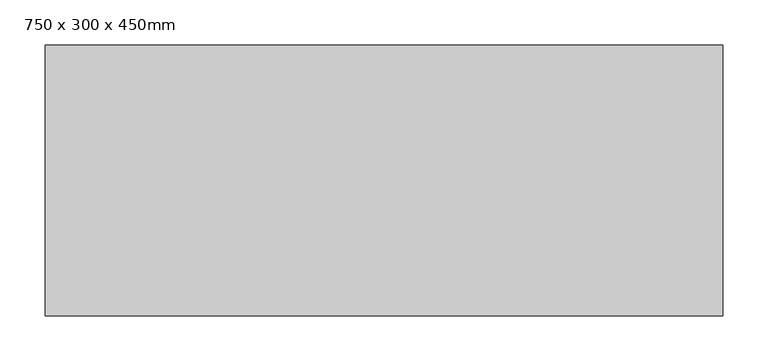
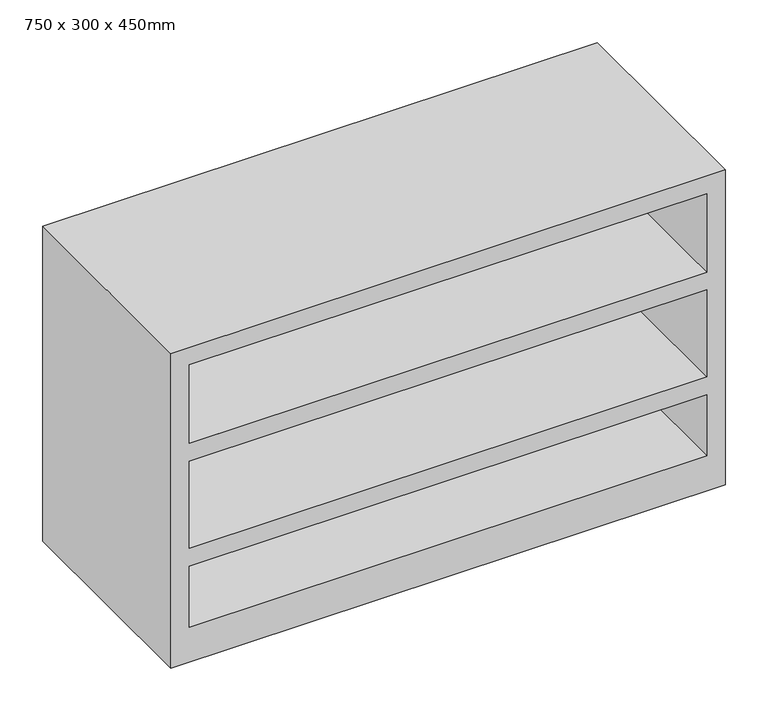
"""IFC4 building model written with IfcOpenShell, lengths in millimetres: furniture geometry, Shelving (Floor) - Allround : 750 x 300 x 450mm."""

import ifcopenshell
import ifcopenshell.guid

model = None  # the IFC model being written
_history = None  # IfcOwnerHistory: only IFC2X3 demands one
_inside = {}  # id of a spatial element -> (the spatial element, [elements in it])
_under = {}  # id of a project, library or spatial element -> (it, [spatial elements below it])
_declared = {}  # id of a project -> (the project, [libraries it declares])
_typed = {}  # id of a type object -> (the type object, [elements of that type])
_made_of = {}  # id of a material, layer set ... -> (it, [elements and type objects made of it])


def new_model(schema):
    """Start an empty IFC model of exactly this schema.

    Asked for "IFC4X3", IfcOpenShell would pick the latest addendum, in which some entities
    have other attributes; the version numbers below select the first issue.
    IFC2X3 requires an IfcOwnerHistory on every rooted entity: one is made here for all.
    """
    global model, _history
    if schema == "IFC4X3":
        model = ifcopenshell.file(schema_version=(4, 3, 0, 0))
    else:
        model = ifcopenshell.file(schema=schema)
    _inside.clear()
    _under.clear()
    _declared.clear()
    _typed.clear()
    _made_of.clear()
    _history = None
    if model.schema == "IFC2X3":
        org = make("IfcOrganization", Name="unknown")
        user = make(
            "IfcPersonAndOrganization",
            ThePerson=make("IfcPerson", FamilyName="unknown"),
            TheOrganization=org,
        )
        app = make(
            "IfcApplication",
            ApplicationDeveloper=org,
            Version="unknown",
            ApplicationFullName="unknown",
            ApplicationIdentifier="unknown",
        )
        _history = make(
            "IfcOwnerHistory",
            OwningUser=user,
            OwningApplication=app,
            ChangeAction="ADDED",
            CreationDate=0,
        )
    return model


def make(cls, **values):
    """One entity of the class cls with the attributes given. An attribute that is None is left unset."""
    return model.create_entity(
        cls, **{name: value for name, value in values.items() if value is not None}
    )


def rooted(cls, **values):
    """An entity with a GlobalId (a new one), such as an element, a storey or a relation."""
    return make(cls, GlobalId=ifcopenshell.guid.new(), OwnerHistory=_history, **values)


def si_unit(unit_type, name, prefix=None):
    """IfcSIUnit, for example si_unit("LENGTHUNIT", "METRE", prefix="MILLI")."""
    return make("IfcSIUnit", UnitType=unit_type, Prefix=prefix, Name=name)


def assignment(units):
    """IfcUnitAssignment: the units of a project."""
    return None if units is None else make("IfcUnitAssignment", Units=units)


def point(xyz):
    """IfcCartesianPoint."""
    return None if xyz is None else make("IfcCartesianPoint", Coordinates=xyz)


def direction(xyz):
    """IfcDirection."""
    return None if xyz is None else make("IfcDirection", DirectionRatios=xyz)


def frame(location, z_axis=None, x_axis=None):
    """IfcAxis2Placement3D, a coordinate frame: its origin and axes. An axis left out is left unset."""
    return make(
        "IfcAxis2Placement3D",
        Location=point(location),
        Axis=direction(z_axis),
        RefDirection=direction(x_axis),
    )


def origin():
    """The frame at (0, 0, 0) with its axes left unset."""
    return frame((0.0, 0.0, 0.0))


def place(relative_to, where):
    """IfcLocalPlacement: puts the frame where relative to a parent placement (None: the world)."""
    return make(
        "IfcLocalPlacement", PlacementRelTo=relative_to, RelativePlacement=where
    )


def context(
    kind, dimensions, precision=None, world=None, true_north=None, identifier=None
):
    """IfcGeometricRepresentationContext, for example the 3D "Model" context."""
    return make(
        "IfcGeometricRepresentationContext",
        ContextIdentifier=identifier,
        ContextType=kind,
        CoordinateSpaceDimension=dimensions,
        Precision=precision,
        WorldCoordinateSystem=world,
        TrueNorth=true_north,
    )


def project(units=None, contexts=None):
    """IfcProject with its units and contexts."""
    return rooted(
        "IfcProject",
        Name="project",
        RepresentationContexts=contexts,
        UnitsInContext=assignment(units),
    )


def spatial(cls, under=None, at=None, **own):
    """A site, building, storey or space (cls), placed at a placement, below another one or the project."""
    s = rooted(cls, ObjectPlacement=at, **own)
    if under is not None:
        _under.setdefault(under.id(), (under, []))[1].append(s)
    return s


def polyline(points):
    """IfcPolyline through the points."""
    return make("IfcPolyline", Points=[point(p) for p in points])


def outline(outer, holes=None, kind="AREA"):
    """IfcArbitraryClosedProfileDef: a profile drawn as a closed curve; with holes, ...WithVoids."""
    if holes is None:
        return make("IfcArbitraryClosedProfileDef", ProfileType=kind, OuterCurve=outer)
    return make(
        "IfcArbitraryProfileDefWithVoids",
        ProfileType=kind,
        OuterCurve=outer,
        InnerCurves=holes,
    )


def extrude(swept, where, along, depth):
    """IfcExtrudedAreaSolid: the profile swept, set in the frame where, extruded along a direction by depth."""
    return make(
        "IfcExtrudedAreaSolid",
        SweptArea=swept,
        Position=where,
        ExtrudedDirection=direction(along),
        Depth=depth,
    )


def shape(context_of_items, identifier, shape_type, items):
    """IfcShapeRepresentation: the items that make up one representation, for example the "Body"."""
    return make(
        "IfcShapeRepresentation",
        ContextOfItems=context_of_items,
        RepresentationIdentifier=identifier,
        RepresentationType=shape_type,
        Items=items,
    )


def source(mapping_origin, context_of_items, identifier, shape_type, items):
    """IfcRepresentationMap: a shape defined once, which mapped items show again and again."""
    return make(
        "IfcRepresentationMap",
        MappingOrigin=mapping_origin,
        MappedRepresentation=shape(context_of_items, identifier, shape_type, items),
    )


def transform(
    local_origin,
    x_axis=None,
    y_axis=None,
    z_axis=None,
    scale=None,
    scale2=None,
    scale3=None,
    uniform=True,
):
    """IfcCartesianTransformationOperator3D, or its non-uniform kind. x_axis, y_axis, z_axis: its Axis1, 2, 3."""
    if uniform:
        return make(
            "IfcCartesianTransformationOperator3D",
            Axis1=direction(x_axis),
            Axis2=direction(y_axis),
            LocalOrigin=point(local_origin),
            Scale=scale,
            Axis3=direction(z_axis),
        )
    return make(
        "IfcCartesianTransformationOperator3DnonUniform",
        Axis1=direction(x_axis),
        Axis2=direction(y_axis),
        LocalOrigin=point(local_origin),
        Scale=scale,
        Axis3=direction(z_axis),
        Scale2=scale2,
        Scale3=scale3,
    )


def mapped(mapping_source, mapping_target):
    """IfcMappedItem: shows the shape of a source again, moved by a transform."""
    return make(
        "IfcMappedItem", MappingSource=mapping_source, MappingTarget=mapping_target
    )


def made_of(thing, what):
    """Note that an element or type object is made of a material, layer set ...; save() writes the relation."""
    if what is not None:
        _made_of.setdefault(what.id(), (what, []))[1].append(thing)
    return thing


def element(
    cls,
    number,
    at=None,
    inside=None,
    cuts=None,
    type_object=None,
    material=None,
    context=None,
    identifier="Body",
    shape_type=None,
    held_by="IfcProductDefinitionShape",
    body=None,
    shapes=None,
    **own,
):
    """One element of the class cls, such as IfcWall. Its Tag is "e" and its number.

    at: its placement. inside: the storey or other place that contains it. cuts: it is an
    opening in that element (IfcRelVoidsElement). A single representation is given by context,
    identifier, shape_type and body (its items); several are given by shapes. held_by: the class
    of the entity that holds the representations. save() writes the other relations.
    """
    e = rooted(cls, Tag="e%d" % number, ObjectPlacement=at, **own)
    if body is not None:
        shapes = [shape(context, identifier, shape_type, body)]
    if shapes is not None:
        e.Representation = make(held_by, Representations=shapes)
    if inside is not None:
        _inside.setdefault(inside.id(), (inside, []))[1].append(e)
    if cuts is not None:
        rooted(
            "IfcRelVoidsElement", RelatingBuildingElement=cuts, RelatedOpeningElement=e
        )
    if type_object is not None:
        _typed.setdefault(type_object.id(), (type_object, []))[1].append(e)
    return made_of(e, material)


def aggregate(whole, parts):
    """IfcRelAggregates: a whole, such as a stair, and the parts it consists of."""
    return rooted("IfcRelAggregates", RelatingObject=whole, RelatedObjects=parts)


def save(model, path):
    """Write the relations noted so far, then the file.

    IfcRelAggregates (storeys below a building ...), IfcRelContainedInSpatialStructure (elements
    in a storey), IfcRelDefinesByType, IfcRelAssociatesMaterial and IfcRelDeclares: one each for
    every whole, place, type object, material and project.
    """
    for whole, parts in _under.values():
        aggregate(whole, parts)
    for where, things in _inside.values():
        rooted(
            "IfcRelContainedInSpatialStructure",
            RelatedElements=things,
            RelatingStructure=where,
        )
    for kind, things in _typed.values():
        rooted("IfcRelDefinesByType", RelatedObjects=things, RelatingType=kind)
    for what, things in _made_of.values():
        rooted("IfcRelAssociatesMaterial", RelatedObjects=things, RelatingMaterial=what)
    for by, libraries in _declared.values():
        rooted("IfcRelDeclares", RelatingContext=by, RelatedDefinitions=libraries)
    model.write(path)


def furniture_750_x_300_x_450mm_957a72fb(model_context):
    return source(origin(), model_context, "Body", "SweptSolid", [
        extrude(outline(polyline([(0.0, 375.0), (450.0, 375.0), (450.0, -375.0), (0.0, -375.0), (0.0, 375.0)]), holes=[polyline([(425.0, 350.0), (312.7, 350.0), (312.7, -350.0), (425.0, -350.0), (425.0, 350.0)]), polyline([(50.0, 350.0), (50.0, -350.0), (137.3, -350.0), (137.3, 350.0), (50.0, 350.0)]), polyline([(287.3, -350.0), (287.3, 350.0), (162.7, 350.0), (162.7, -350.0), (287.3, -350.0)])]), frame((0.0, -454.8, 0.0), z_axis=(0.0, 1.0, 0.0), x_axis=(0.0, 0.0, 1.0)), (0.0, 0.0, 1.0), 300.0),
    ])


if __name__ == "__main__":
    model = new_model("IFC4")
    model_context = context("Model", 3, world=origin())
    ifc_project = project(units=[si_unit("LENGTHUNIT", "METRE", prefix="MILLI")], contexts=[model_context])
    site = spatial("IfcSite", under=ifc_project)
    building = spatial("IfcBuilding", under=site)
    placement = place(None, origin())
    furniture_750_x_300_x_450mm_shape = furniture_750_x_300_x_450mm_957a72fb(model_context)
    element("IfcFurniture", 1, ObjectType="Shelving (Floor) - Allround : 750 x 300 x 450mm", at=placement, inside=building, context=model_context, shape_type="MappedRepresentation", body=[
        mapped(furniture_750_x_300_x_450mm_shape, transform((0.0, 0.0, 0.0), x_axis=(1.0, 0.0, 0.0), y_axis=(0.0, 1.0, 0.0), z_axis=(0.0, 0.0, 1.0))),
    ])
    save(model, "model.ifc")
